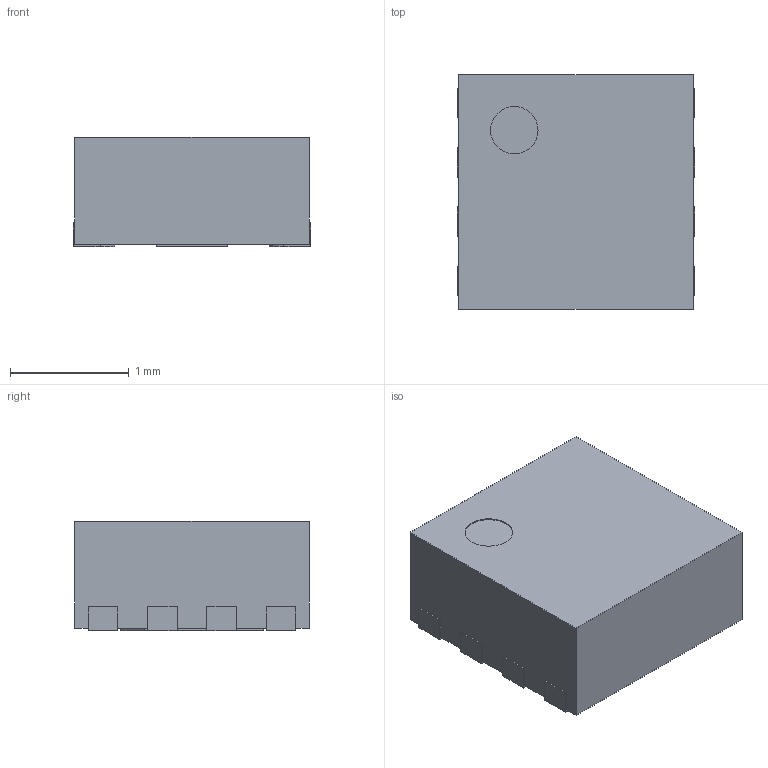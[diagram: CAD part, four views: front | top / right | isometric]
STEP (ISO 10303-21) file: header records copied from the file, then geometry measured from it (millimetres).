
FILE_DESCRIPTION (( 'STEP AP214' ), '1' );
FILE_NAME ('SOLID-20_DFN-8-1EP_2x2mm_P0.5mm_EP1.05x1.75mm_navX2-mxp-cad.step', '2025-12-23T15:54:06', ( '' ), ( '' ), 'SwSTEP 2.0', 'SolidWorks 2026', '' );
FILE_SCHEMA (( 'AUTOMOTIVE_DESIGN' ));
Length unit declared in the file: inch
Products named in the file (1): SOLID-20_DFN-8-1EP_2x2mm_P0.5mm_EP1.05x1.75mm_navX2-mxp-cad
Bounding box: 2 x 1.98 x 0.92 mm (x, y, z)
Volume: 3.6 mm3; surface area: 15.3 mm2
Topology: 1 solids, 1 shells, 63 faces, 177 edges, 118 vertices
Faces by surface type: plane 53, cylinder 10
Entity records: 2038 total; most frequent: CARTESIAN_POINT 359, ORIENTED_EDGE 354, DIRECTION 325, EDGE_CURVE 177, LINE 157, VECTOR 157, VERTEX_POINT 118, AXIS2_PLACEMENT_3D 84
